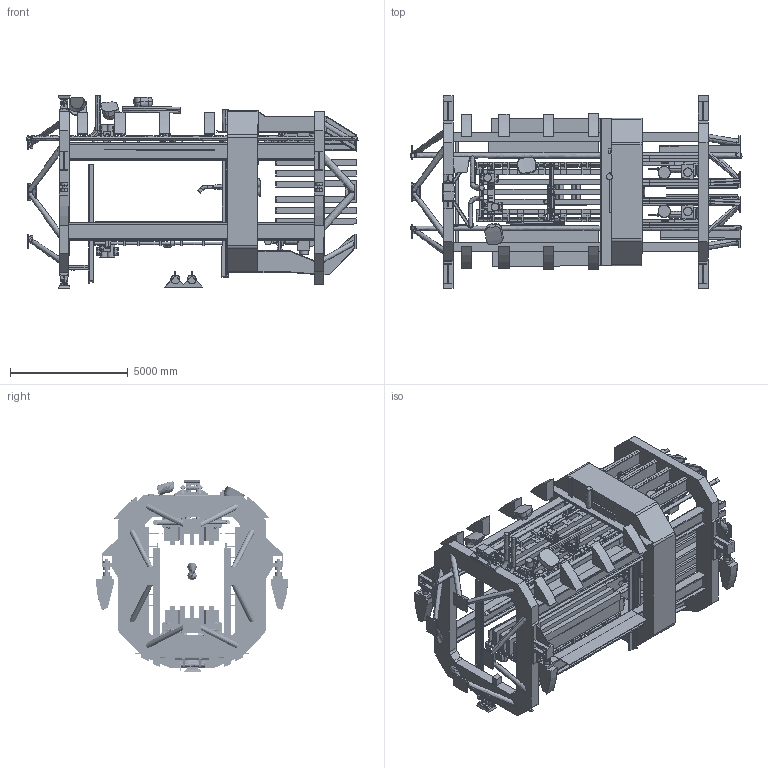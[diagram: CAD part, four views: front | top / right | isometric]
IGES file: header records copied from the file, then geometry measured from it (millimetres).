
Global section: file name: Z:\prj2.1\wind_tunnels\NTF\outgoing\NTF_Rumsey_October_2023\NTF_Additional_Obstructions_2023_10_02.igs; native system: NX V12.0; preprocessor: SIEMENS PLM Software NX 12.0; date: 20231003.102219; units: inch
Bounding box: 14075.9 x 8176.22 x 8180.12 mm (x, y, z)
Surface area: 896390137.4 mm2 (no closed solid volume)
Topology: 0 solids, 0 shells, 4404 faces, 34751 edges, 34731 vertices
Faces by surface type: bspline 4403, offset 1
